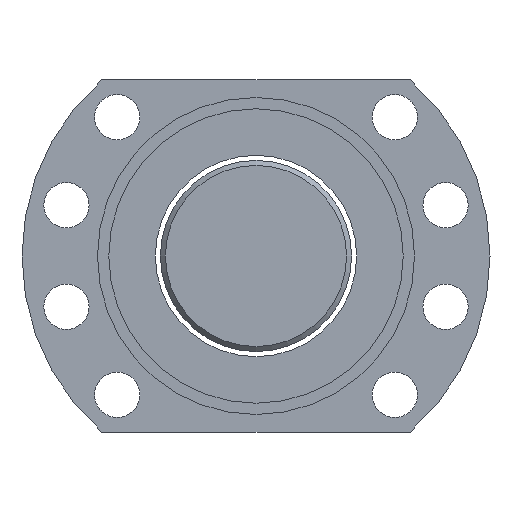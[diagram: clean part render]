
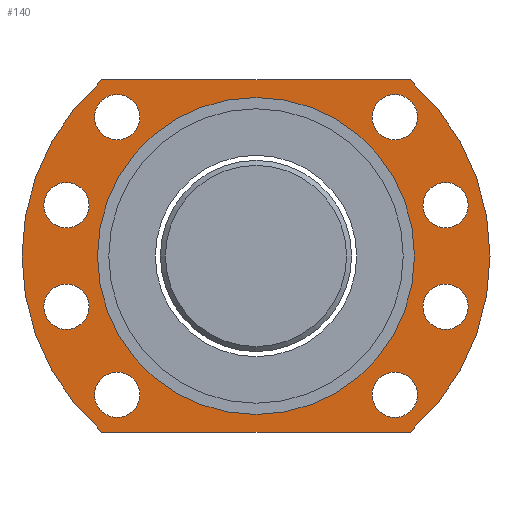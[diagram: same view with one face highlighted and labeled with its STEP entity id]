
A CAD part, left-side view. The second image highlights one B-rep face of the part: STEP entity #140.
In plain terms, the highlighted planar face has unit normal (-1, 0, 0).
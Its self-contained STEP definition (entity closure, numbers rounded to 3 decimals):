
#140=ADVANCED_FACE('',(#239,#240,#241,#242,#243,#244,#245,#246,#247,#248),
#192,.T.);
#192=PLANE('',#793);
#215=LINE('',#1151,#223);
#216=LINE('',#1155,#224);
#223=VECTOR('',#920,1.);
#224=VECTOR('',#923,1.);
#239=FACE_BOUND('',#347,.T.);
#240=FACE_BOUND('',#348,.T.);
#241=FACE_BOUND('',#349,.T.);
#242=FACE_BOUND('',#350,.T.);
#243=FACE_BOUND('',#351,.T.);
#244=FACE_BOUND('',#352,.T.);
#245=FACE_BOUND('',#353,.T.);
#246=FACE_BOUND('',#354,.T.);
#247=FACE_BOUND('',#355,.T.);
#248=FACE_BOUND('',#356,.T.);
#347=EDGE_LOOP('',(#464));
#348=EDGE_LOOP('',(#465));
#349=EDGE_LOOP('',(#466));
#350=EDGE_LOOP('',(#467));
#351=EDGE_LOOP('',(#468));
#352=EDGE_LOOP('',(#469,#470,#471,#472));
#353=EDGE_LOOP('',(#473));
#354=EDGE_LOOP('',(#474));
#355=EDGE_LOOP('',(#475));
#356=EDGE_LOOP('',(#476));
#464=ORIENTED_EDGE('',*,*,#658,.T.);
#465=ORIENTED_EDGE('',*,*,#659,.T.);
#466=ORIENTED_EDGE('',*,*,#660,.F.);
#467=ORIENTED_EDGE('',*,*,#661,.F.);
#468=ORIENTED_EDGE('',*,*,#662,.F.);
#469=ORIENTED_EDGE('',*,*,#663,.T.);
#470=ORIENTED_EDGE('',*,*,#664,.T.);
#471=ORIENTED_EDGE('',*,*,#665,.T.);
#472=ORIENTED_EDGE('',*,*,#666,.T.);
#473=ORIENTED_EDGE('',*,*,#667,.F.);
#474=ORIENTED_EDGE('',*,*,#668,.T.);
#475=ORIENTED_EDGE('',*,*,#669,.F.);
#476=ORIENTED_EDGE('',*,*,#670,.T.);
#596=VERTEX_POINT('',#1139);
#597=VERTEX_POINT('',#1141);
#598=VERTEX_POINT('',#1143);
#599=VERTEX_POINT('',#1145);
#600=VERTEX_POINT('',#1147);
#601=VERTEX_POINT('',#1149);
#602=VERTEX_POINT('',#1150);
#603=VERTEX_POINT('',#1152);
#604=VERTEX_POINT('',#1154);
#605=VERTEX_POINT('',#1157);
#606=VERTEX_POINT('',#1159);
#607=VERTEX_POINT('',#1161);
#608=VERTEX_POINT('',#1163);
#658=EDGE_CURVE('',#596,#596,#722,.T.);
#659=EDGE_CURVE('',#597,#597,#723,.T.);
#660=EDGE_CURVE('',#598,#598,#724,.T.);
#661=EDGE_CURVE('',#599,#599,#725,.T.);
#662=EDGE_CURVE('',#600,#600,#726,.T.);
#663=EDGE_CURVE('',#601,#602,#727,.T.);
#664=EDGE_CURVE('',#602,#603,#215,.T.);
#665=EDGE_CURVE('',#603,#604,#728,.T.);
#666=EDGE_CURVE('',#604,#601,#216,.T.);
#667=EDGE_CURVE('',#605,#605,#729,.T.);
#668=EDGE_CURVE('',#606,#606,#730,.T.);
#669=EDGE_CURVE('',#607,#607,#731,.T.);
#670=EDGE_CURVE('',#608,#608,#732,.T.);
#722=CIRCLE('',#782,4.5);
#723=CIRCLE('',#783,4.5);
#724=CIRCLE('',#784,4.5);
#725=CIRCLE('',#785,4.5);
#726=CIRCLE('',#786,4.5);
#727=CIRCLE('',#787,46.5);
#728=CIRCLE('',#788,46.5);
#729=CIRCLE('',#789,31.5);
#730=CIRCLE('',#790,4.5);
#731=CIRCLE('',#791,4.5);
#732=CIRCLE('',#792,4.5);
#782=AXIS2_PLACEMENT_3D('',#1138,#908,#909);
#783=AXIS2_PLACEMENT_3D('',#1140,#910,#911);
#784=AXIS2_PLACEMENT_3D('',#1142,#912,#913);
#785=AXIS2_PLACEMENT_3D('',#1144,#914,#915);
#786=AXIS2_PLACEMENT_3D('',#1146,#916,#917);
#787=AXIS2_PLACEMENT_3D('',#1148,#918,#919);
#788=AXIS2_PLACEMENT_3D('',#1153,#921,#922);
#789=AXIS2_PLACEMENT_3D('',#1156,#924,#925);
#790=AXIS2_PLACEMENT_3D('',#1158,#926,#927);
#791=AXIS2_PLACEMENT_3D('',#1160,#928,#929);
#792=AXIS2_PLACEMENT_3D('',#1162,#930,#931);
#793=AXIS2_PLACEMENT_3D('',#1164,#932,#933);
#908=DIRECTION('',(1.,0.,0.));
#909=DIRECTION('',(0.,0.,1.));
#910=DIRECTION('',(1.,0.,0.));
#911=DIRECTION('',(0.,0.,1.));
#912=DIRECTION('',(-1.,0.,0.));
#913=DIRECTION('',(0.,0.,1.));
#914=DIRECTION('',(-1.,0.,0.));
#915=DIRECTION('',(0.,0.,1.));
#916=DIRECTION('',(-1.,0.,0.));
#917=DIRECTION('',(0.,0.,1.));
#918=DIRECTION('',(-1.,0.,0.));
#919=DIRECTION('',(0.,0.,-1.));
#920=DIRECTION('',(0.,-1.,0.));
#921=DIRECTION('',(-1.,0.,0.));
#922=DIRECTION('',(0.,0.,-1.));
#923=DIRECTION('',(0.,1.,0.));
#924=DIRECTION('',(-1.,0.,0.));
#925=DIRECTION('',(0.,0.,-1.));
#926=DIRECTION('',(1.,0.,0.));
#927=DIRECTION('',(0.,0.,1.));
#928=DIRECTION('',(-1.,0.,0.));
#929=DIRECTION('',(0.,0.,1.));
#930=DIRECTION('',(1.,0.,0.));
#931=DIRECTION('',(0.,0.,1.));
#932=DIRECTION('',(-1.,0.,0.));
#933=DIRECTION('',(0.,0.,1.));
#1138=CARTESIAN_POINT('',(124.817,2.319,3.349));
#1139=CARTESIAN_POINT('',(124.817,2.319,7.849));
#1140=CARTESIAN_POINT('',(124.817,12.413,-34.322));
#1141=CARTESIAN_POINT('',(124.817,12.413,-29.822));
#1142=CARTESIAN_POINT('',(124.817,67.567,-34.322));
#1143=CARTESIAN_POINT('',(124.817,67.567,-29.822));
#1144=CARTESIAN_POINT('',(124.817,77.661,3.349));
#1145=CARTESIAN_POINT('',(124.817,77.661,7.849));
#1146=CARTESIAN_POINT('',(124.817,77.661,-16.839));
#1147=CARTESIAN_POINT('',(124.817,77.661,-12.339));
#1148=CARTESIAN_POINT('',(124.817,39.99,-6.745));
#1149=CARTESIAN_POINT('',(124.817,70.604,28.255));
#1150=CARTESIAN_POINT('',(124.817,70.604,-41.745));
#1151=CARTESIAN_POINT('',(124.817,70.604,-41.745));
#1152=CARTESIAN_POINT('',(124.817,9.375,-41.745));
#1153=CARTESIAN_POINT('',(124.817,39.99,-6.745));
#1154=CARTESIAN_POINT('',(124.817,9.375,28.255));
#1155=CARTESIAN_POINT('',(124.817,9.375,28.255));
#1156=CARTESIAN_POINT('',(124.817,39.99,-6.745));
#1157=CARTESIAN_POINT('',(124.817,39.99,-38.245));
#1158=CARTESIAN_POINT('',(124.817,2.319,-16.839));
#1159=CARTESIAN_POINT('',(124.817,2.319,-12.339));
#1160=CARTESIAN_POINT('',(124.817,67.567,20.832));
#1161=CARTESIAN_POINT('',(124.817,67.567,25.332));
#1162=CARTESIAN_POINT('',(124.817,12.413,20.832));
#1163=CARTESIAN_POINT('',(124.817,12.413,25.332));
#1164=CARTESIAN_POINT('',(124.817,39.99,-6.745));
